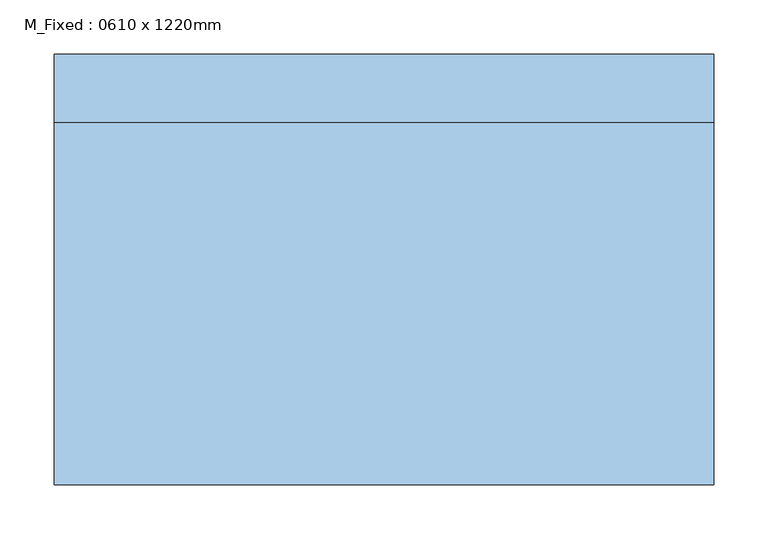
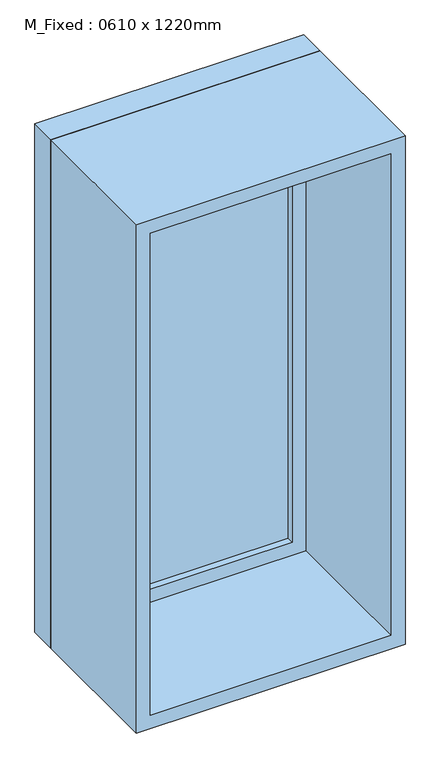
"""IFC4 building model written with IfcOpenShell, lengths in millimetres: window geometry, M_Fixed : 0610 x 1220mm."""

from ifc_helpers import new_model, si_unit, frame, origin, place, context, project, spatial, polyline, outline, extrude, source, transform, mapped, element, save


def m_fixed_0610_x_1220mm_41f4d490(model_context):
    return source(origin(), model_context, "Body", "SweptSolid", [
        extrude(outline(polyline([(-242.0, 177.0), (242.0, 177.0), (242.0, 165.0), (-242.0, 165.0), (-242.0, 177.0)])), frame((0.0, 0.0, 978.0), z_axis=(0.0, 0.0, 1.0), x_axis=(1.0, 0.0, 0.0)), (0.0, 0.0, 1.0), 1094.0),
        extrude(outline(polyline([(2116.0, -286.0), (934.0, -286.0), (934.0, 286.0), (2116.0, 286.0), (2116.0, -286.0)]), holes=[polyline([(2072.0, -242.0), (2072.0, 242.0), (978.0, 242.0), (978.0, -242.0), (2072.0, -242.0)])]), frame((0.0, 149.0, 0.0), z_axis=(0.0, 1.0, 0.0), x_axis=(0.0, 0.0, 1.0)), (0.0, 0.0, 1.0), 44.0),
        extrude(outline(polyline([(2135.0, -305.0), (915.0, -305.0), (915.0, 305.0), (2135.0, 305.0), (2135.0, -305.0)]), holes=[polyline([(2116.0, -286.0), (2116.0, 286.0), (934.0, 286.0), (934.0, -286.0), (2116.0, -286.0)])]), frame((0.0, 149.0, 0.0), z_axis=(0.0, 1.0, 0.0), x_axis=(0.0, 0.0, 1.0)), (0.0, 0.0, 1.0), 63.0),
        extrude(outline(polyline([(2135.0, -305.0), (915.0, -305.0), (915.0, 305.0), (2135.0, 305.0), (2135.0, -305.0)]), holes=[polyline([(2103.0, -273.0), (2103.0, 273.0), (947.0, 273.0), (947.0, -273.0), (2103.0, -273.0)])]), frame((0.0, -186.0, 0.0), z_axis=(0.0, 1.0, 0.0), x_axis=(0.0, 0.0, 1.0)), (0.0, 0.0, 1.0), 335.0),
    ])


if __name__ == "__main__":
    model = new_model("IFC4")
    model_context = context("Model", 3, world=origin())
    ifc_project = project(units=[si_unit("LENGTHUNIT", "METRE", prefix="MILLI")], contexts=[model_context])
    site = spatial("IfcSite", under=ifc_project)
    building = spatial("IfcBuilding", under=site)
    placement = place(None, origin())
    m_fixed_0610_x_1220mm_shape = m_fixed_0610_x_1220mm_41f4d490(model_context)
    element("IfcWindow", 1, ObjectType="M_Fixed : 0610 x 1220mm", at=placement, inside=building, context=model_context, shape_type="MappedRepresentation", body=[
        mapped(m_fixed_0610_x_1220mm_shape, transform((0.0, 0.0, 0.0), x_axis=(1.0, 0.0, 0.0), y_axis=(0.0, 1.0, 0.0), z_axis=(0.0, 0.0, 1.0))),
    ])
    save(model, "model.ifc")
